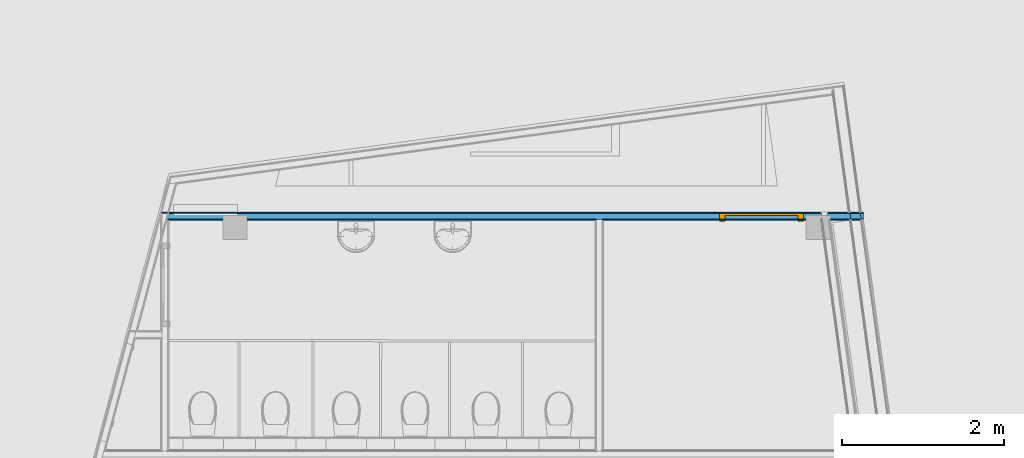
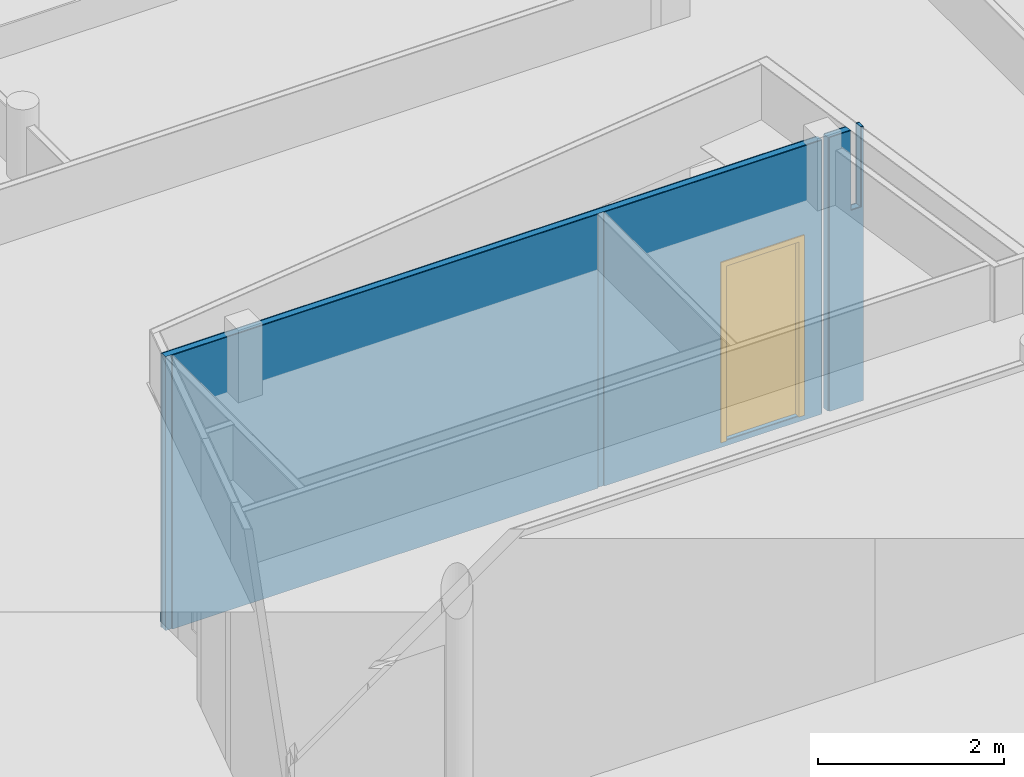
# One storey, part 35 of 167: 3 building element parts, 1 door, 1 opening, 1 element without a shape of its own.
"""IFC2X3 building model written with IfcOpenShell, lengths in millimetres."""

from ifc_helpers import new_model, entity, si_unit, converted_unit, derived_unit, money_unit, direction, frame, origin_with_axes, place, context, subcontext, project, spatial, faceted_brep, source, transform, mapped, material, type_object, type_shapes, element, fill, aggregate, save


model = new_model("IFC2X3")

# Units and contexts
model_context = context("Model", 3, precision=0.01, world=origin_with_axes(), true_north=direction((0.0, 1.0)))
plan_context = context("Plan", 3, precision=0.01, world=origin_with_axes(), true_north=direction((0.0, 1.0)))
body_context = subcontext(model_context, "Body", "Model", "MODEL_VIEW")
ifc_project = project(units=[si_unit("LENGTHUNIT", "METRE", prefix="MILLI"), si_unit("AREAUNIT", "SQUARE_METRE"), si_unit("VOLUMEUNIT", "CUBIC_METRE"), converted_unit("PLANEANGLEUNIT", "DEGREE", entity("IfcPlaneAngleMeasure", 0.0174532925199), si_unit("PLANEANGLEUNIT", "RADIAN"), dimensions=[0, 0, 0, 0, 0, 0, 0]), si_unit("SOLIDANGLEUNIT", "STERADIAN"), money_unit("EUR"), converted_unit("TIMEUNIT", "Year", entity("IfcTimeMeasure", 31556926.0), si_unit("TIMEUNIT", "SECOND"), dimensions=[0, 0, 1, 0, 0, 0, 0]), si_unit("MASSUNIT", "GRAM", prefix="KILO"), si_unit("THERMODYNAMICTEMPERATUREUNIT", "DEGREE_CELSIUS"), si_unit("LUMINOUSINTENSITYUNIT", "LUMEN"), si_unit("ENERGYUNIT", "JOULE", prefix="MEGA"), derived_unit("THERMALCONDUCTANCEUNIT", [(si_unit("POWERUNIT", "WATT"), 1), (si_unit("LENGTHUNIT", "METRE"), -1), (si_unit("THERMODYNAMICTEMPERATUREUNIT", "KELVIN"), -1)]), derived_unit("SPECIFICHEATCAPACITYUNIT", [(si_unit("ENERGYUNIT", "JOULE"), 1), (si_unit("MASSUNIT", "GRAM", prefix="KILO"), -1), (si_unit("THERMODYNAMICTEMPERATUREUNIT", "KELVIN"), -1)]), derived_unit("MASSDENSITYUNIT", [(si_unit("MASSUNIT", "GRAM", prefix="KILO"), 1), (si_unit("VOLUMEUNIT", "CUBIC_METRE"), -1)])], contexts=[model_context, plan_context])

# Site, building, storey
site_placement = place(None, origin_with_axes())
site = spatial("IfcSite", under=ifc_project, at=site_placement, Name="Site", CompositionType="ELEMENT")
building_placement = place(site_placement, origin_with_axes())
building = spatial("IfcBuilding", under=site, at=building_placement, Name="Naam gebouw", CompositionType="ELEMENT")
storey_placement = place(building_placement, origin_with_axes())
storey = spatial("IfcBuildingStorey", under=building, at=storey_placement, Name="Begane grond", CompositionType="ELEMENT", Elevation=0.0)

# Door
door_style = type_object("IfcDoorStyle", Name="D1 24", ConstructionType="NOTDEFINED", OperationType="SINGLE_SWING_RIGHT", ParameterTakesPrecedence=False, Sizeable=False)
shared_shape = source(origin_with_axes(), body_context, "Body", "Brep", [
    faceted_brep([(-450.0, -40.0, 0.0), (-450.0, -40.0, 2300.0), (-450.0, -114.0, 2300.0), (-450.0, -114.0, 0.0), (-475.0, -40.0, 2300.0), (-475.0, -40.0, 0.0), (-475.0, 0.0, 2300.0), (-517.0, 0.0, 2300.0), (-517.0, -114.0, 2300.0), (-517.0, -114.0, 0.0), (-517.0, 0.0, 0.0), (-475.0, 0.0, 0.0)], [[[0, 1, 2, 3]], [[4, 1, 0, 5]], [[4, 6, 7, 8, 2, 1]], [[3, 2, 8, 9]], [[5, 0, 3, 9, 10, 11]], [[6, 4, 5, 11]], [[6, 11, 10, 7]], [[10, 9, 8, 7]]]),
    faceted_brep([(475.0, -40.0, 2300.0), (450.0, -40.0, 2300.0), (450.0, -114.0, 2300.0), (517.0, -114.0, 2300.0), (517.0, 0.0, 2300.0), (475.0, 0.0, 2300.0), (475.0, -40.0, 0.0), (450.0, -40.0, 0.0), (450.0, -114.0, 0.0), (517.0, -114.0, 0.0), (517.0, 0.0, 0.0), (475.0, 0.0, 0.0)], [[[0, 1, 2, 3, 4, 5]], [[1, 0, 6, 7]], [[1, 7, 8, 2]], [[3, 2, 8, 9]], [[4, 3, 9, 10]], [[11, 5, 4, 10]], [[0, 5, 11, 6]], [[6, 11, 10, 9, 8, 7]]]),
    faceted_brep([(-475.0, 0.0, 2325.0), (-475.0, 0.0, 2300.0), (-517.0, 0.0, 2300.0), (-517.0, 0.0, 2367.0), (517.0, 0.0, 2367.0), (517.0, 0.0, 2300.0), (475.0, 0.0, 2300.0), (475.0, 0.0, 2325.0), (-475.0, -40.0, 2325.0), (-475.0, -40.0, 2300.0), (-450.0, -40.0, 2300.0), (-450.0, -114.0, 2300.0), (-517.0, -114.0, 2300.0), (-517.0, -114.0, 2367.0), (517.0, -114.0, 2367.0), (517.0, -114.0, 2300.0), (475.0, -40.0, 2300.0), (450.0, -114.0, 2300.0), (450.0, -40.0, 2300.0), (475.0, -40.0, 2325.0)], [[[0, 1, 2, 3, 4, 5, 6, 7]], [[1, 0, 8, 9]], [[9, 10, 11, 12, 2, 1]], [[2, 12, 13, 3]], [[3, 13, 14, 4]], [[4, 14, 15, 5]], [[16, 6, 5, 15, 17, 18]], [[7, 6, 16, 19]], [[0, 7, 19, 8]], [[16, 18, 10, 9, 8, 19]], [[10, 18, 17, 11]], [[17, 15, 14, 13, 12, 11]]]),
    faceted_brep([(475.0, 0.0, 0.0), (475.0, -40.0, 0.0), (-475.0, -40.0, 0.0), (-475.0, 0.0, 0.0), (475.0, 0.0, 2325.0), (475.0, -40.0, 2325.0), (-475.0, -40.0, 2325.0), (-475.0, 0.0, 2325.0)], [[[0, 1, 2, 3]], [[4, 5, 1, 0]], [[1, 5, 6, 2]], [[3, 2, 6, 7]], [[0, 3, 7, 4]], [[7, 6, 5, 4]]]),
])
type_shapes(door_style, [shared_shape])
wall_placement = place(storey_placement, frame((13530.0673236, 38589.2116284, -100.0), z_axis=(0.0, 0.0, 1.0), x_axis=(1.0, 0.0, 0.0)))
opening_placement = place(wall_placement, frame((7368.19184081, 0.0, 102.0), z_axis=(0.0, 0.0, 1.0), x_axis=(1.0, 0.0, 0.0)))
door_placement = place(opening_placement, frame((-517.0, 0.0, 0.0), z_axis=(0.0, 0.0, 1.0), x_axis=(1.0, 0.0, 0.0)))
door = element("IfcDoor", 1, at=door_placement, inside=storey, type_object=door_style, Name="32_Deur_Hi-01s", ObjectType="DOOR", OverallHeight=2367.0, OverallWidth=1034.0, context=body_context, shape_type="MappedRepresentation", body=[
    mapped(shared_shape, transform((517.0, 50.0, 0.0))),
])

# Wall, opening
wall_type = type_object("IfcWallType", Name="_TenW_22_Metalstud 100 enkel gipsvezelplaat 100", PredefinedType="NOTDEFINED")
wall = element("IfcWall", 2, at=wall_placement, inside=storey, type_object=wall_type, Name="22_Wand_Wand-x")
opening = element("IfcOpeningElement", 3, at=opening_placement, cuts=wall, Name="32_Deur_Hi-01s", context=body_context, shape_type="Brep", body=[
    faceted_brep([(517.0, -100.0, 2367.0), (517.0, -100.0, 0.0), (517.0, 200.0, 0.0), (517.0, 200.0, 2367.0), (-517.0, -100.0, 2367.0), (-517.0, -100.0, 0.0), (-517.0, 200.0, 0.0), (-517.0, 200.0, 2367.0)], [[[0, 1, 2, 3]], [[0, 4, 5, 1]], [[1, 5, 6, 2]], [[3, 2, 6, 7]], [[4, 0, 3, 7]], [[5, 4, 7, 6]]]),
])

fill(opening, door)

# Building element part
ifc_material_1 = material(Name="Gipsplaat watervast")
building_element_part_1_placement = place(wall_placement, origin_with_axes())
building_element_part_1 = element("IfcBuildingElementPart", 4, at=building_element_part_1_placement, material=ifc_material_1, Name="Gipsplaat watervast", context=body_context, shape_type="Brep", body=[
    faceted_brep([(8628.00047878, 37.5, 30.0), (8628.00047878, 50.0, 30.0), (8628.00047878, 50.0, 3630.0), (8628.00047878, 37.5, 3630.0), (8195.42302837, 50.0, 30.0), (8197.1160101, 37.5, 30.0), (8195.42302837, 50.0, 3630.0), (8461.63947019, 50.0, 3630.0), (8461.63947019, 50.0, 2580.0), (8587.78073511, 50.0, 2580.0), (8587.78073511, 50.0, 3630.0), (8589.47371685, 37.5, 3630.0), (8589.47371685, 37.5, 2580.0), (8463.33245193, 37.5, 2580.0), (8463.33245193, 37.5, 3630.0), (8197.1160101, 37.5, 3630.0)], [[[0, 1, 2, 3]], [[4, 1, 0, 5]], [[1, 4, 6, 7, 8, 9, 10, 2]], [[2, 10, 11, 3]], [[5, 0, 3, 11, 12, 13, 14, 15]], [[4, 5, 15, 6]], [[15, 14, 7, 6]], [[8, 7, 14, 13]], [[8, 13, 12, 9]], [[9, 12, 11, 10]]]),
    faceted_brep([(8096.20299817, 37.5, 30.0), (8096.20299817, 37.5, 3630.0), (-50.0, 37.5, 3630.0), (-50.0, 37.5, 30.0), (6851.19184081, 37.5, 102.0), (6851.19184081, 37.5, 2469.0), (7885.19184081, 37.5, 2469.0), (7885.19184081, 37.5, 102.0), (8094.51001643, 50.0, 30.0), (8094.51001643, 50.0, 3630.0), (-50.0, 50.0, 3630.0), (-50.0, 50.0, 30.0), (6851.19184081, 50.0, 102.0), (6851.19184081, 50.0, 2469.0), (7885.19184081, 50.0, 2469.0), (7885.19184081, 50.0, 102.0)], [[[0, 1, 2, 3], [4, 5, 6, 7]], [[8, 9, 1, 0]], [[9, 10, 2, 1]], [[3, 2, 10, 11]], [[0, 3, 11, 8]], [[12, 13, 5, 4]], [[13, 14, 6, 5]], [[14, 15, 7, 6]], [[15, 12, 4, 7]], [[11, 10, 9, 8], [12, 15, 14, 13]]]),
])

ifc_material_2 = material(Name="Isolatie - Steenwol zacht")
building_element_part_2_placement = place(wall_placement, origin_with_axes())
building_element_part_2 = element("IfcBuildingElementPart", 5, at=building_element_part_2_placement, material=ifc_material_2, Name="Isolatie - Steenwol zacht", context=body_context, shape_type="Brep", body=[
    faceted_brep([(8628.00047878, -37.5, 30.0), (8628.00047878, 37.5, 30.0), (8628.00047878, 37.5, 3630.0), (8628.00047878, -37.5, 3630.0), (8184.50188361, 37.5, 30.0), (8194.65977403, -37.5, 30.0), (8184.50188361, 37.5, 3630.0), (8463.33245193, 37.5, 3630.0), (8463.33245193, 37.5, 2580.0), (8589.47371685, 37.5, 2580.0), (8589.47371685, 37.5, 3630.0), (8599.63160727, -37.5, 3630.0), (8599.63160727, -37.5, 2580.0), (8473.49034235, -37.5, 2580.0), (8473.49034235, -37.5, 3630.0), (8194.65977403, -37.5, 3630.0)], [[[0, 1, 2, 3]], [[4, 1, 0, 5]], [[1, 4, 6, 7, 8, 9, 10, 2]], [[2, 10, 11, 3]], [[5, 0, 3, 11, 12, 13, 14, 15]], [[4, 5, 15, 6]], [[15, 14, 7, 6]], [[8, 7, 14, 13]], [[8, 13, 12, 9]], [[9, 12, 11, 10]]]),
    faceted_brep([(8118.97501508, -37.5, 30.0), (8118.97501508, -37.5, 3630.0), (-37.5, -37.5, 3630.0), (-37.5, -37.5, 30.0), (6851.19184081, -37.5, 102.0), (6851.19184081, -37.5, 2469.0), (7885.19184081, -37.5, 2469.0), (7885.19184081, -37.5, 102.0), (8108.81712466, 37.5, 30.0), (8108.81712466, 37.5, 3630.0), (-37.5, 37.5, 3630.0), (-37.5, 37.5, 30.0), (6851.19184081, 37.5, 102.0), (6851.19184081, 37.5, 2469.0), (7885.19184081, 37.5, 2469.0), (7885.19184081, 37.5, 102.0)], [[[0, 1, 2, 3], [4, 5, 6, 7]], [[8, 9, 1, 0]], [[9, 10, 2, 1]], [[3, 2, 10, 11]], [[0, 3, 11, 8]], [[12, 13, 5, 4]], [[13, 14, 6, 5]], [[14, 15, 7, 6]], [[15, 12, 4, 7]], [[11, 10, 9, 8], [12, 15, 14, 13]]]),
])

building_element_part_3_placement = place(wall_placement, origin_with_axes())
building_element_part_3 = element("IfcBuildingElementPart", 6, at=building_element_part_3_placement, material=ifc_material_1, Name="Gipsplaat watervast", context=body_context, shape_type="Brep", body=[
    faceted_brep([(8628.00047878, -50.0, 30.0), (8628.00047878, -37.5, 30.0), (8628.00047878, -37.5, 3630.0), (8628.00047878, -50.0, 3630.0), (8207.27390052, -37.5, 30.0), (8208.96688226, -50.0, 30.0), (8207.27390052, -37.5, 3630.0), (8473.49034235, -37.5, 3630.0), (8473.49034235, -37.5, 2580.0), (8599.63160727, -37.5, 2580.0), (8599.63160727, -37.5, 3630.0), (8601.32458901, -50.0, 3630.0), (8601.32458901, -50.0, 2580.0), (8475.18332409, -50.0, 2580.0), (8475.18332409, -50.0, 3630.0), (8208.96688226, -50.0, 3630.0)], [[[0, 1, 2, 3]], [[4, 1, 0, 5]], [[1, 4, 6, 7, 8, 9, 10, 2]], [[2, 10, 11, 3]], [[5, 0, 3, 11, 12, 13, 14, 15]], [[4, 5, 15, 6]], [[15, 14, 7, 6]], [[8, 7, 14, 13]], [[8, 13, 12, 9]], [[9, 12, 11, 10]]]),
    faceted_brep([(8108.05387032, -50.0, 30.0), (8108.05387032, -50.0, 3630.0), (5406.20728928, -50.0, 3630.0), (5406.20728928, -50.0, 30.0), (6851.19184081, -50.0, 102.0), (6851.19184081, -50.0, 2469.0), (7885.19184081, -50.0, 2469.0), (7885.19184081, -50.0, 102.0), (8106.36088859, -37.5, 30.0), (8106.36088859, -37.5, 3630.0), (5406.20728928, -37.5, 3630.0), (5406.20728928, -37.5, 30.0), (6851.19184081, -37.5, 102.0), (6851.19184081, -37.5, 2469.0), (7885.19184081, -37.5, 2469.0), (7885.19184081, -37.5, 102.0)], [[[0, 1, 2, 3], [4, 5, 6, 7]], [[8, 9, 1, 0]], [[9, 10, 2, 1]], [[3, 2, 10, 11]], [[0, 3, 11, 8]], [[12, 13, 5, 4]], [[13, 14, 6, 5]], [[14, 15, 7, 6]], [[15, 12, 4, 7]], [[11, 10, 9, 8], [12, 15, 14, 13]]]),
    faceted_brep([(5331.20728928, -50.0, 30.0), (5331.20728928, -37.5, 30.0), (5331.20728928, -37.5, 3630.0), (5331.20728928, -50.0, 3630.0), (37.5, -37.5, 30.0), (37.5, -50.0, 30.0), (37.5, -37.5, 3630.0), (37.5, -50.0, 3630.0)], [[[0, 1, 2, 3]], [[4, 1, 0, 5]], [[1, 4, 6, 2]], [[3, 2, 6, 7]], [[5, 0, 3, 7]], [[4, 5, 7, 6]]]),
])

aggregate(wall, [building_element_part_1, building_element_part_2, building_element_part_3])

save(model, "model.ifc")
